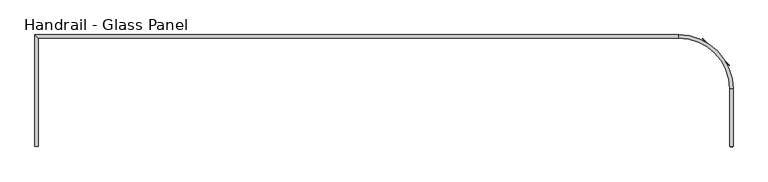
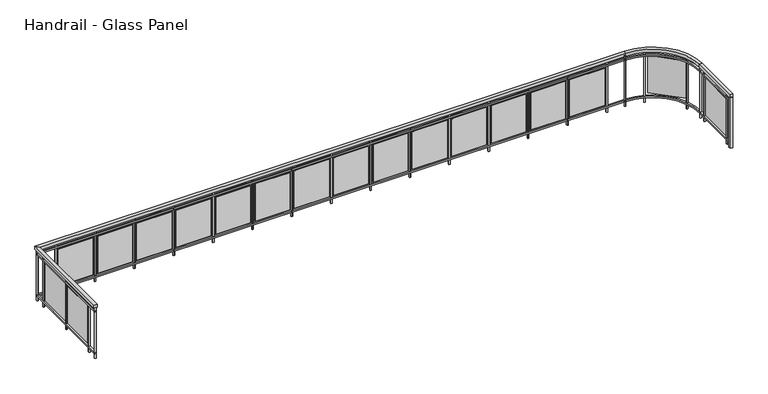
"""IFC4 building model written with IfcOpenShell, lengths in millimetres: railing geometry, Handrail - Glass Panel."""

import ifcopenshell
import ifcopenshell.guid

model = None  # the IFC model being written
_history = None  # IfcOwnerHistory: only IFC2X3 demands one
_inside = {}  # id of a spatial element -> (the spatial element, [elements in it])
_under = {}  # id of a project, library or spatial element -> (it, [spatial elements below it])
_declared = {}  # id of a project -> (the project, [libraries it declares])
_typed = {}  # id of a type object -> (the type object, [elements of that type])
_made_of = {}  # id of a material, layer set ... -> (it, [elements and type objects made of it])


def new_model(schema):
    """Start an empty IFC model of exactly this schema.

    Asked for "IFC4X3", IfcOpenShell would pick the latest addendum, in which some entities
    have other attributes; the version numbers below select the first issue.
    IFC2X3 requires an IfcOwnerHistory on every rooted entity: one is made here for all.
    """
    global model, _history
    if schema == "IFC4X3":
        model = ifcopenshell.file(schema_version=(4, 3, 0, 0))
    else:
        model = ifcopenshell.file(schema=schema)
    _inside.clear()
    _under.clear()
    _declared.clear()
    _typed.clear()
    _made_of.clear()
    _history = None
    if model.schema == "IFC2X3":
        org = make("IfcOrganization", Name="unknown")
        user = make(
            "IfcPersonAndOrganization",
            ThePerson=make("IfcPerson", FamilyName="unknown"),
            TheOrganization=org,
        )
        app = make(
            "IfcApplication",
            ApplicationDeveloper=org,
            Version="unknown",
            ApplicationFullName="unknown",
            ApplicationIdentifier="unknown",
        )
        _history = make(
            "IfcOwnerHistory",
            OwningUser=user,
            OwningApplication=app,
            ChangeAction="ADDED",
            CreationDate=0,
        )
    return model


def make(cls, **values):
    """One entity of the class cls with the attributes given. An attribute that is None is left unset."""
    return model.create_entity(
        cls, **{name: value for name, value in values.items() if value is not None}
    )


def rooted(cls, **values):
    """An entity with a GlobalId (a new one), such as an element, a storey or a relation."""
    return make(cls, GlobalId=ifcopenshell.guid.new(), OwnerHistory=_history, **values)


def si_unit(unit_type, name, prefix=None):
    """IfcSIUnit, for example si_unit("LENGTHUNIT", "METRE", prefix="MILLI")."""
    return make("IfcSIUnit", UnitType=unit_type, Prefix=prefix, Name=name)


def assignment(units):
    """IfcUnitAssignment: the units of a project."""
    return None if units is None else make("IfcUnitAssignment", Units=units)


def point(xyz):
    """IfcCartesianPoint."""
    return None if xyz is None else make("IfcCartesianPoint", Coordinates=xyz)


def direction(xyz):
    """IfcDirection."""
    return None if xyz is None else make("IfcDirection", DirectionRatios=xyz)


def frame(location, z_axis=None, x_axis=None):
    """IfcAxis2Placement3D, a coordinate frame: its origin and axes. An axis left out is left unset."""
    return make(
        "IfcAxis2Placement3D",
        Location=point(location),
        Axis=direction(z_axis),
        RefDirection=direction(x_axis),
    )


def frame_2d(location, x_axis=None):
    """IfcAxis2Placement2D, a coordinate frame in the plane: its origin and x axis."""
    return make(
        "IfcAxis2Placement2D", Location=point(location), RefDirection=direction(x_axis)
    )


def origin():
    """The frame at (0, 0, 0) with its axes left unset."""
    return frame((0.0, 0.0, 0.0))


def place(relative_to, where):
    """IfcLocalPlacement: puts the frame where relative to a parent placement (None: the world)."""
    return make(
        "IfcLocalPlacement", PlacementRelTo=relative_to, RelativePlacement=where
    )


def context(
    kind, dimensions, precision=None, world=None, true_north=None, identifier=None
):
    """IfcGeometricRepresentationContext, for example the 3D "Model" context."""
    return make(
        "IfcGeometricRepresentationContext",
        ContextIdentifier=identifier,
        ContextType=kind,
        CoordinateSpaceDimension=dimensions,
        Precision=precision,
        WorldCoordinateSystem=world,
        TrueNorth=true_north,
    )


def project(units=None, contexts=None):
    """IfcProject with its units and contexts."""
    return rooted(
        "IfcProject",
        Name="project",
        RepresentationContexts=contexts,
        UnitsInContext=assignment(units),
    )


def spatial(cls, under=None, at=None, **own):
    """A site, building, storey or space (cls), placed at a placement, below another one or the project."""
    s = rooted(cls, ObjectPlacement=at, **own)
    if under is not None:
        _under.setdefault(under.id(), (under, []))[1].append(s)
    return s


def polyline(points):
    """IfcPolyline through the points."""
    return make("IfcPolyline", Points=[point(p) for p in points])


def circle_curve(where, radius):
    """IfcCircle in the frame where."""
    return make("IfcCircle", Position=where, Radius=radius)


def trimmed(basis, trim1, trim2, sense, master):
    """IfcTrimmedCurve: the piece of a basis curve between two trims."""
    return make(
        "IfcTrimmedCurve",
        BasisCurve=basis,
        Trim1=trim1,
        Trim2=trim2,
        SenseAgreement=sense,
        MasterRepresentation=master,
    )


def segment(curve, same_sense, transition):
    """IfcCompositeCurveSegment."""
    return make(
        "IfcCompositeCurveSegment",
        Transition=transition,
        SameSense=same_sense,
        ParentCurve=curve,
    )


def composite_curve(segments, self_intersect=None):
    """IfcCompositeCurve: segments joined end to end."""
    return make("IfcCompositeCurve", Segments=segments, SelfIntersect=self_intersect)


def outline(outer, holes=None, kind="AREA"):
    """IfcArbitraryClosedProfileDef: a profile drawn as a closed curve; with holes, ...WithVoids."""
    if holes is None:
        return make("IfcArbitraryClosedProfileDef", ProfileType=kind, OuterCurve=outer)
    return make(
        "IfcArbitraryProfileDefWithVoids",
        ProfileType=kind,
        OuterCurve=outer,
        InnerCurves=holes,
    )


def extrude(swept, where, along, depth):
    """IfcExtrudedAreaSolid: the profile swept, set in the frame where, extruded along a direction by depth."""
    return make(
        "IfcExtrudedAreaSolid",
        SweptArea=swept,
        Position=where,
        ExtrudedDirection=direction(along),
        Depth=depth,
    )


def shape(context_of_items, identifier, shape_type, items):
    """IfcShapeRepresentation: the items that make up one representation, for example the "Body"."""
    return make(
        "IfcShapeRepresentation",
        ContextOfItems=context_of_items,
        RepresentationIdentifier=identifier,
        RepresentationType=shape_type,
        Items=items,
    )


def source(mapping_origin, context_of_items, identifier, shape_type, items):
    """IfcRepresentationMap: a shape defined once, which mapped items show again and again."""
    return make(
        "IfcRepresentationMap",
        MappingOrigin=mapping_origin,
        MappedRepresentation=shape(context_of_items, identifier, shape_type, items),
    )


def transform(
    local_origin,
    x_axis=None,
    y_axis=None,
    z_axis=None,
    scale=None,
    scale2=None,
    scale3=None,
    uniform=True,
):
    """IfcCartesianTransformationOperator3D, or its non-uniform kind. x_axis, y_axis, z_axis: its Axis1, 2, 3."""
    if uniform:
        return make(
            "IfcCartesianTransformationOperator3D",
            Axis1=direction(x_axis),
            Axis2=direction(y_axis),
            LocalOrigin=point(local_origin),
            Scale=scale,
            Axis3=direction(z_axis),
        )
    return make(
        "IfcCartesianTransformationOperator3DnonUniform",
        Axis1=direction(x_axis),
        Axis2=direction(y_axis),
        LocalOrigin=point(local_origin),
        Scale=scale,
        Axis3=direction(z_axis),
        Scale2=scale2,
        Scale3=scale3,
    )


def mapped(mapping_source, mapping_target):
    """IfcMappedItem: shows the shape of a source again, moved by a transform."""
    return make(
        "IfcMappedItem", MappingSource=mapping_source, MappingTarget=mapping_target
    )


def made_of(thing, what):
    """Note that an element or type object is made of a material, layer set ...; save() writes the relation."""
    if what is not None:
        _made_of.setdefault(what.id(), (what, []))[1].append(thing)
    return thing


def element(
    cls,
    number,
    at=None,
    inside=None,
    cuts=None,
    type_object=None,
    material=None,
    context=None,
    identifier="Body",
    shape_type=None,
    held_by="IfcProductDefinitionShape",
    body=None,
    shapes=None,
    **own,
):
    """One element of the class cls, such as IfcWall. Its Tag is "e" and its number.

    at: its placement. inside: the storey or other place that contains it. cuts: it is an
    opening in that element (IfcRelVoidsElement). A single representation is given by context,
    identifier, shape_type and body (its items); several are given by shapes. held_by: the class
    of the entity that holds the representations. save() writes the other relations.
    """
    e = rooted(cls, Tag="e%d" % number, ObjectPlacement=at, **own)
    if body is not None:
        shapes = [shape(context, identifier, shape_type, body)]
    if shapes is not None:
        e.Representation = make(held_by, Representations=shapes)
    if inside is not None:
        _inside.setdefault(inside.id(), (inside, []))[1].append(e)
    if cuts is not None:
        rooted(
            "IfcRelVoidsElement", RelatingBuildingElement=cuts, RelatedOpeningElement=e
        )
    if type_object is not None:
        _typed.setdefault(type_object.id(), (type_object, []))[1].append(e)
    return made_of(e, material)


def aggregate(whole, parts):
    """IfcRelAggregates: a whole, such as a stair, and the parts it consists of."""
    return rooted("IfcRelAggregates", RelatingObject=whole, RelatedObjects=parts)


def save(model, path):
    """Write the relations noted so far, then the file.

    IfcRelAggregates (storeys below a building ...), IfcRelContainedInSpatialStructure (elements
    in a storey), IfcRelDefinesByType, IfcRelAssociatesMaterial and IfcRelDeclares: one each for
    every whole, place, type object, material and project.
    """
    for whole, parts in _under.values():
        aggregate(whole, parts)
    for where, things in _inside.values():
        rooted(
            "IfcRelContainedInSpatialStructure",
            RelatedElements=things,
            RelatingStructure=where,
        )
    for kind, things in _typed.values():
        rooted("IfcRelDefinesByType", RelatedObjects=things, RelatingType=kind)
    for what, things in _made_of.values():
        rooted("IfcRelAssociatesMaterial", RelatedObjects=things, RelatingMaterial=what)
    for by, libraries in _declared.values():
        rooted("IfcRelDeclares", RelatingContext=by, RelatedDefinitions=libraries)
    model.write(path)


def plane_surface(at):
    """IfcPlane: the flat surface through the origin of the frame at, square to its z axis."""
    return make("IfcPlane", Position=at)


def cylinder_surface(at, radius):
    """IfcCylindricalSurface: all points at the distance radius from the z axis of the frame at."""
    return make("IfcCylindricalSurface", Position=at, Radius=radius)


def revolved_surface(curve, axis_point, axis_direction):
    """IfcSurfaceOfRevolution: the curve turned about the line through axis_point along axis_direction."""
    return make(
        "IfcSurfaceOfRevolution",
        SweptCurve=make("IfcArbitraryOpenProfileDef", ProfileType="CURVE", Curve=curve),
        AxisPosition=make("IfcAxis1Placement", Location=point(axis_point), Axis=direction(axis_direction)),
    )


def advanced_brep(points, edges, surfaces, faces):
    """IfcAdvancedBrep: a solid bounded by faces that lie on surfaces and meet in shared edges.

    An edge is (start, end): straight between two places in points (the first is 0);
    or (start, end, curve); or (start, end, curve, False) where it runs against its curve.
    A face is (place in surfaces, loops), or (place, loops, False) where it looks against
    its surface's normal. A loop lists edges by number (the first is 1), with a minus sign
    where the edge is run from its end to its start. The first loop is the outer one.
    """
    corners = [point(p) for p in points]
    vertices = [make("IfcVertexPoint", VertexGeometry=c) for c in corners]
    made = []
    for start, end, *more in edges:
        made.append(
            make(
                "IfcEdgeCurve",
                EdgeStart=vertices[start],
                EdgeEnd=vertices[end],
                EdgeGeometry=more[0] if more else make("IfcPolyline", Points=[corners[start], corners[end]]),
                SameSense=more[1] if len(more) > 1 else True,
            )
        )
    hull = []
    for where, loops, *sense in faces:
        bounds = []
        for j, loop in enumerate(loops):
            ring = [make("IfcOrientedEdge", EdgeElement=made[abs(k) - 1], Orientation=k > 0) for k in loop]
            bounds.append(
                make(
                    "IfcFaceOuterBound" if j == 0 else "IfcFaceBound",
                    Bound=make("IfcEdgeLoop", EdgeList=ring),
                    Orientation=True,
                )
            )
        hull.append(make("IfcAdvancedFace", Bounds=bounds, FaceSurface=surfaces[where], SameSense=sense[0] if sense else True))
    return make("IfcAdvancedBrep", Outer=make("IfcClosedShell", CfsFaces=hull))


def handrail_glass_panel_52af69f2(model_context):
    return source(origin(), model_context, "Body", "SolidModel", [
        advanced_brep(
        [(30113.2134101, 6897.3851347, 5564.4), (30062.4134101, 6897.3851347, 5564.4), (30062.4134101, 6897.3851347, 5513.6), (30113.2134101, 6897.3851347, 5513.6), (30113.2134101, 7747.3851347, 5564.4), (30062.4134101, 7747.3851347, 5564.4), (30062.4134101, 7747.3851347, 5513.6), (30113.2134101, 7747.3851347, 5513.6), (29312.4134101, 8497.3851347, 5564.4), (29312.4134101, 8548.1851347, 5564.4), (29312.4134101, 8497.3851347, 5513.6), (29312.4134101, 8548.1851347, 5513.6), (19806.6134101, 8548.1851347, 5564.4), (19857.4134101, 8497.3851347, 5564.4), (19857.4134101, 8497.3851347, 5513.6), (19806.6134101, 8548.1851347, 5513.6), (19806.6134101, 6897.3851347, 5564.4), (19806.6134101, 6897.3851347, 5513.6), (19857.4134101, 6897.3851347, 5513.6), (19857.4134101, 6897.3851347, 5564.4)],
        [
            (0, 1),
            (1, 2),
            (2, 3),
            (3, 0),
            (0, 4),
            (4, 5),
            (5, 1),
            (5, 6),
            (6, 2),
            (6, 7),
            (7, 3),
            (7, 4),
            (8, 5, circle_curve(frame((29312.4134101, 7747.3851347, 5564.4), z_axis=(0.0, 0.0, -1.0), x_axis=(1.0, 0.0, 0.0)), 750.0)),
            (4, 9, circle_curve(frame((29312.4134101, 7747.3851347, 5564.4), z_axis=(0.0, 0.0, 1.0), x_axis=(1.0, 0.0, 0.0)), 800.8)),
            (9, 8),
            (10, 6, circle_curve(frame((29312.4134101, 7747.3851347, 5513.6), z_axis=(0.0, 0.0, -1.0), x_axis=(1.0, 0.0, 0.0)), 750.0)),
            (8, 10),
            (11, 7, circle_curve(frame((29312.4134101, 7747.3851347, 5513.6), z_axis=(0.0, 0.0, -1.0), x_axis=(1.0, 0.0, 0.0)), 800.8)),
            (10, 11),
            (11, 9),
            (9, 12),
            (12, 13),
            (13, 8),
            (13, 14),
            (14, 10),
            (14, 15),
            (15, 11),
            (15, 12),
            (16, 17),
            (17, 18),
            (18, 19),
            (19, 16),
            (12, 16),
            (19, 13),
            (18, 14),
            (17, 15),
        ],
        [
            plane_surface(frame((30087.8134101, 6897.3851347, 5564.4), z_axis=(0.0, -1.0, 0.0), x_axis=(0.0, 0.0, 1.0))),
            plane_surface(frame((30113.2134101, 6897.3851347, 5564.4), z_axis=(0.0, 0.0, 1.0), x_axis=(0.0, 1.0, 0.0))),
            plane_surface(frame((30062.4134101, 6897.3851347, 5564.4), z_axis=(-1.0, 0.0, 0.0), x_axis=(0.0, 1.0, 0.0))),
            plane_surface(frame((30062.4134101, 6897.3851347, 5513.6), z_axis=(0.0, 0.0, -1.0), x_axis=(0.0, 1.0, 0.0))),
            plane_surface(frame((30113.2134101, 6897.3851347, 5513.6), z_axis=(1.0, 0.0, 0.0), x_axis=(0.0, 1.0, 0.0))),
            plane_surface(frame((29312.4134101, 7747.3851347, 5564.4), z_axis=(0.0, 0.0, 1.0), x_axis=(1.0, 0.0, 0.0))),
            revolved_surface(polyline([(30062.4134101, 7747.3851347, 5564.4), (30062.4134101, 7747.3851347, 5513.6)]), (29312.4134101, 7747.3851347, 5564.4), (0.0, 0.0, 1.0)),
            plane_surface(frame((29312.4134101, 7747.3851347, 5513.6), z_axis=(0.0, 0.0, -1.0), x_axis=(1.0, 0.0, 0.0))),
            cylinder_surface(frame((29312.4134101, 7747.3851347, 5564.4), z_axis=(0.0, 0.0, 1.0), x_axis=(1.0, 0.0, 0.0)), 800.8),
            plane_surface(frame((29312.4134101, 8548.1851347, 5564.4), z_axis=(0.0, 0.0, 1.0), x_axis=(-1.0, 0.0, 0.0))),
            plane_surface(frame((29312.4134101, 8497.3851347, 5564.4), z_axis=(0.0, -1.0, 0.0), x_axis=(-1.0, 0.0, 0.0))),
            plane_surface(frame((29312.4134101, 8497.3851347, 5513.6), z_axis=(0.0, 0.0, -1.0), x_axis=(-1.0, 0.0, 0.0))),
            plane_surface(frame((29312.4134101, 8548.1851347, 5513.6), z_axis=(0.0, 1.0, 0.0), x_axis=(-1.0, 0.0, 0.0))),
            plane_surface(frame((19832.0134101, 6897.3851347, 5564.4), z_axis=(0.0, -1.0, 0.0), x_axis=(0.0, 0.0, -1.0))),
            plane_surface(frame((19806.6134101, 8548.1851347, 5564.4), z_axis=(0.0, 0.0, 1.0), x_axis=(0.0, -1.0, 0.0))),
            plane_surface(frame((19857.4134101, 8497.3851347, 5564.4), z_axis=(1.0, 0.0, 0.0), x_axis=(0.0, -1.0, 0.0))),
            plane_surface(frame((19857.4134101, 8497.3851347, 5513.6), z_axis=(0.0, 0.0, -1.0), x_axis=(0.0, -1.0, 0.0))),
            plane_surface(frame((19806.6134101, 8548.1851347, 5513.6), z_axis=(-1.0, 0.0, 0.0), x_axis=(0.0, -1.0, 0.0))),
        ],
        [
            (0, [[1, 2, 3, 4]]),
            (1, [[-1, 5, 6, 7]]),
            (2, [[-2, -7, 8, 9]]),
            (3, [[-3, -9, 10, 11]]),
            (4, [[-4, -11, 12, -5]]),
            (5, [[13, -6, 14, 15]]),
            (6, [[16, -8, -13, 17]]),
            (7, [[18, -10, -16, 19]]),
            (8, [[-14, -12, -18, 20]]),
            (9, [[-15, 21, 22, 23]]),
            (10, [[-17, -23, 24, 25]]),
            (11, [[-19, -25, 26, 27]]),
            (12, [[-20, -27, 28, -21]]),
            (13, [[29, 30, 31, 32]]),
            (14, [[-22, 33, -32, 34]]),
            (15, [[-24, -34, -31, 35]]),
            (16, [[-26, -35, -30, 36]]),
            (17, [[-28, -36, -29, -33]]),
        ],
    ),
        advanced_brep(
        [(30100.5134101, 6897.3851347, 5462.8), (30075.1134101, 6897.3851347, 5462.8), (30075.1134101, 6897.3851347, 5437.4), (30100.5134101, 6897.3851347, 5437.4), (30100.5134101, 7747.3851347, 5462.8), (30075.1134101, 7747.3851347, 5462.8), (30075.1134101, 7747.3851347, 5437.4), (30100.5134101, 7747.3851347, 5437.4), (29312.4134101, 8510.0851347, 5462.8), (29312.4134101, 8535.4851347, 5462.8), (29312.4134101, 8510.0851347, 5437.4), (29312.4134101, 8535.4851347, 5437.4), (19819.3134101, 8535.4851347, 5462.8), (19844.7134101, 8510.0851347, 5462.8), (19844.7134101, 8510.0851347, 5437.4), (19819.3134101, 8535.4851347, 5437.4), (19819.3134101, 6897.3851347, 5462.8), (19819.3134101, 6897.3851347, 5437.4), (19844.7134101, 6897.3851347, 5437.4), (19844.7134101, 6897.3851347, 5462.8)],
        [
            (0, 1),
            (1, 2),
            (2, 3),
            (3, 0),
            (0, 4),
            (4, 5),
            (5, 1),
            (5, 6),
            (6, 2),
            (6, 7),
            (7, 3),
            (7, 4),
            (8, 5, circle_curve(frame((29312.4134101, 7747.3851347, 5462.8), z_axis=(0.0, 0.0, -1.0), x_axis=(1.0, 0.0, 0.0)), 762.7)),
            (4, 9, circle_curve(frame((29312.4134101, 7747.3851347, 5462.8), z_axis=(0.0, 0.0, 1.0), x_axis=(1.0, 0.0, 0.0)), 788.1)),
            (9, 8),
            (10, 6, circle_curve(frame((29312.4134101, 7747.3851347, 5437.4), z_axis=(0.0, 0.0, -1.0), x_axis=(1.0, 0.0, 0.0)), 762.7)),
            (8, 10),
            (11, 7, circle_curve(frame((29312.4134101, 7747.3851347, 5437.4), z_axis=(0.0, 0.0, -1.0), x_axis=(1.0, 0.0, 0.0)), 788.1)),
            (10, 11),
            (11, 9),
            (9, 12),
            (12, 13),
            (13, 8),
            (13, 14),
            (14, 10),
            (14, 15),
            (15, 11),
            (15, 12),
            (16, 17),
            (17, 18),
            (18, 19),
            (19, 16),
            (12, 16),
            (19, 13),
            (18, 14),
            (17, 15),
        ],
        [
            plane_surface(frame((30087.8134101, 6897.3851347, 5462.8), z_axis=(0.0, -1.0, 0.0), x_axis=(0.0, 0.0, 1.0))),
            plane_surface(frame((30100.5134101, 6897.3851347, 5462.8), z_axis=(0.0, 0.0, 1.0), x_axis=(0.0, 1.0, 0.0))),
            plane_surface(frame((30075.1134101, 6897.3851347, 5462.8), z_axis=(-1.0, 0.0, 0.0), x_axis=(0.0, 1.0, 0.0))),
            plane_surface(frame((30075.1134101, 6897.3851347, 5437.4), z_axis=(0.0, 0.0, -1.0), x_axis=(0.0, 1.0, 0.0))),
            plane_surface(frame((30100.5134101, 6897.3851347, 5437.4), z_axis=(1.0, 0.0, 0.0), x_axis=(0.0, 1.0, 0.0))),
            plane_surface(frame((29312.4134101, 7747.3851347, 5462.8), z_axis=(0.0, 0.0, 1.0), x_axis=(1.0, 0.0, 0.0))),
            revolved_surface(polyline([(30075.113410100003, 7747.3851347, 5462.8), (30075.113410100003, 7747.3851347, 5437.4)]), (29312.4134101, 7747.3851347, 5462.8), (0.0, 0.0, 1.0)),
            plane_surface(frame((29312.4134101, 7747.3851347, 5437.4), z_axis=(0.0, 0.0, -1.0), x_axis=(1.0, 0.0, 0.0))),
            cylinder_surface(frame((29312.4134101, 7747.3851347, 5462.8), z_axis=(0.0, 0.0, 1.0), x_axis=(1.0, 0.0, 0.0)), 788.1),
            plane_surface(frame((29312.4134101, 8535.4851347, 5462.8), z_axis=(0.0, 0.0, 1.0), x_axis=(-1.0, 0.0, 0.0))),
            plane_surface(frame((29312.4134101, 8510.0851347, 5462.8), z_axis=(0.0, -1.0, 0.0), x_axis=(-1.0, 0.0, 0.0))),
            plane_surface(frame((29312.4134101, 8510.0851347, 5437.4), z_axis=(0.0, 0.0, -1.0), x_axis=(-1.0, 0.0, 0.0))),
            plane_surface(frame((29312.4134101, 8535.4851347, 5437.4), z_axis=(0.0, 1.0, 0.0), x_axis=(-1.0, 0.0, 0.0))),
            plane_surface(frame((19832.0134101, 6897.3851347, 5462.8), z_axis=(0.0, -1.0, 0.0), x_axis=(0.0, 0.0, -1.0))),
            plane_surface(frame((19819.3134101, 8535.4851347, 5462.8), z_axis=(0.0, 0.0, 1.0), x_axis=(0.0, -1.0, 0.0))),
            plane_surface(frame((19844.7134101, 8510.0851347, 5462.8), z_axis=(1.0, 0.0, 0.0), x_axis=(0.0, -1.0, 0.0))),
            plane_surface(frame((19844.7134101, 8510.0851347, 5437.4), z_axis=(0.0, 0.0, -1.0), x_axis=(0.0, -1.0, 0.0))),
            plane_surface(frame((19819.3134101, 8535.4851347, 5437.4), z_axis=(-1.0, 0.0, 0.0), x_axis=(0.0, -1.0, 0.0))),
        ],
        [
            (0, [[1, 2, 3, 4]]),
            (1, [[-1, 5, 6, 7]]),
            (2, [[-2, -7, 8, 9]]),
            (3, [[-3, -9, 10, 11]]),
            (4, [[-4, -11, 12, -5]]),
            (5, [[13, -6, 14, 15]]),
            (6, [[16, -8, -13, 17]]),
            (7, [[18, -10, -16, 19]]),
            (8, [[-14, -12, -18, 20]]),
            (9, [[-15, 21, 22, 23]]),
            (10, [[-17, -23, 24, 25]]),
            (11, [[-19, -25, 26, 27]]),
            (12, [[-20, -27, 28, -21]]),
            (13, [[29, 30, 31, 32]]),
            (14, [[-22, 33, -32, 34]]),
            (15, [[-24, -34, -31, 35]]),
            (16, [[-26, -35, -30, 36]]),
            (17, [[-28, -36, -29, -33]]),
        ],
    ),
        advanced_brep(
        [(30100.5134101, 6897.3851347, 4751.6), (30075.1134101, 6897.3851347, 4751.6), (30075.1134101, 6897.3851347, 4726.2), (30100.5134101, 6897.3851347, 4726.2), (30100.5134101, 7747.3851347, 4751.6), (30075.1134101, 7747.3851347, 4751.6), (30075.1134101, 7747.3851347, 4726.2), (30100.5134101, 7747.3851347, 4726.2), (29312.4134101, 8510.0851347, 4751.6), (29312.4134101, 8535.4851347, 4751.6), (29312.4134101, 8510.0851347, 4726.2), (29312.4134101, 8535.4851347, 4726.2), (19819.3134101, 8535.4851347, 4751.6), (19844.7134101, 8510.0851347, 4751.6), (19844.7134101, 8510.0851347, 4726.2), (19819.3134101, 8535.4851347, 4726.2), (19819.3134101, 6897.3851347, 4751.6), (19819.3134101, 6897.3851347, 4726.2), (19844.7134101, 6897.3851347, 4726.2), (19844.7134101, 6897.3851347, 4751.6)],
        [
            (0, 1),
            (1, 2),
            (2, 3),
            (3, 0),
            (0, 4),
            (4, 5),
            (5, 1),
            (5, 6),
            (6, 2),
            (6, 7),
            (7, 3),
            (7, 4),
            (8, 5, circle_curve(frame((29312.4134101, 7747.3851347, 4751.6), z_axis=(0.0, 0.0, -1.0), x_axis=(1.0, 0.0, 0.0)), 762.7)),
            (4, 9, circle_curve(frame((29312.4134101, 7747.3851347, 4751.6), z_axis=(0.0, 0.0, 1.0), x_axis=(1.0, 0.0, 0.0)), 788.1)),
            (9, 8),
            (10, 6, circle_curve(frame((29312.4134101, 7747.3851347, 4726.2), z_axis=(0.0, 0.0, -1.0), x_axis=(1.0, 0.0, 0.0)), 762.7)),
            (8, 10),
            (11, 7, circle_curve(frame((29312.4134101, 7747.3851347, 4726.2), z_axis=(0.0, 0.0, -1.0), x_axis=(1.0, 0.0, 0.0)), 788.1)),
            (10, 11),
            (11, 9),
            (9, 12),
            (12, 13),
            (13, 8),
            (13, 14),
            (14, 10),
            (14, 15),
            (15, 11),
            (15, 12),
            (16, 17),
            (17, 18),
            (18, 19),
            (19, 16),
            (12, 16),
            (19, 13),
            (18, 14),
            (17, 15),
        ],
        [
            plane_surface(frame((30087.8134101, 6897.3851347, 4751.6), z_axis=(0.0, -1.0, 0.0), x_axis=(0.0, 0.0, 1.0))),
            plane_surface(frame((30100.5134101, 6897.3851347, 4751.6), z_axis=(0.0, 0.0, 1.0), x_axis=(0.0, 1.0, 0.0))),
            plane_surface(frame((30075.1134101, 6897.3851347, 4751.6), z_axis=(-1.0, 0.0, 0.0), x_axis=(0.0, 1.0, 0.0))),
            plane_surface(frame((30075.1134101, 6897.3851347, 4726.2), z_axis=(0.0, 0.0, -1.0), x_axis=(0.0, 1.0, 0.0))),
            plane_surface(frame((30100.5134101, 6897.3851347, 4726.2), z_axis=(1.0, 0.0, 0.0), x_axis=(0.0, 1.0, 0.0))),
            plane_surface(frame((29312.4134101, 7747.3851347, 4751.6), z_axis=(0.0, 0.0, 1.0), x_axis=(1.0, 0.0, 0.0))),
            revolved_surface(polyline([(30075.113410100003, 7747.3851347, 4751.6), (30075.113410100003, 7747.3851347, 4726.2)]), (29312.4134101, 7747.3851347, 4751.6), (0.0, 0.0, 1.0)),
            plane_surface(frame((29312.4134101, 7747.3851347, 4726.2), z_axis=(0.0, 0.0, -1.0), x_axis=(1.0, 0.0, 0.0))),
            cylinder_surface(frame((29312.4134101, 7747.3851347, 4751.6), z_axis=(0.0, 0.0, 1.0), x_axis=(1.0, 0.0, 0.0)), 788.1),
            plane_surface(frame((29312.4134101, 8535.4851347, 4751.6), z_axis=(0.0, 0.0, 1.0), x_axis=(-1.0, 0.0, 0.0))),
            plane_surface(frame((29312.4134101, 8510.0851347, 4751.6), z_axis=(0.0, -1.0, 0.0), x_axis=(-1.0, 0.0, 0.0))),
            plane_surface(frame((29312.4134101, 8510.0851347, 4726.2), z_axis=(0.0, 0.0, -1.0), x_axis=(-1.0, 0.0, 0.0))),
            plane_surface(frame((29312.4134101, 8535.4851347, 4726.2), z_axis=(0.0, 1.0, 0.0), x_axis=(-1.0, 0.0, 0.0))),
            plane_surface(frame((19832.0134101, 6897.3851347, 4751.6), z_axis=(0.0, -1.0, 0.0), x_axis=(0.0, 0.0, -1.0))),
            plane_surface(frame((19819.3134101, 8535.4851347, 4751.6), z_axis=(0.0, 0.0, 1.0), x_axis=(0.0, -1.0, 0.0))),
            plane_surface(frame((19844.7134101, 8510.0851347, 4751.6), z_axis=(1.0, 0.0, 0.0), x_axis=(0.0, -1.0, 0.0))),
            plane_surface(frame((19844.7134101, 8510.0851347, 4726.2), z_axis=(0.0, 0.0, -1.0), x_axis=(0.0, -1.0, 0.0))),
            plane_surface(frame((19819.3134101, 8535.4851347, 4726.2), z_axis=(-1.0, 0.0, 0.0), x_axis=(0.0, -1.0, 0.0))),
        ],
        [
            (0, [[1, 2, 3, 4]]),
            (1, [[-1, 5, 6, 7]]),
            (2, [[-2, -7, 8, 9]]),
            (3, [[-3, -9, 10, 11]]),
            (4, [[-4, -11, 12, -5]]),
            (5, [[13, -6, 14, 15]]),
            (6, [[16, -8, -13, 17]]),
            (7, [[18, -10, -16, 19]]),
            (8, [[-14, -12, -18, 20]]),
            (9, [[-15, 21, 22, 23]]),
            (10, [[-17, -23, 24, 25]]),
            (11, [[-19, -25, 26, 27]]),
            (12, [[-20, -27, 28, -21]]),
            (13, [[29, 30, 31, 32]]),
            (14, [[-22, 33, -32, 34]]),
            (15, [[-24, -34, -31, 35]]),
            (16, [[-26, -35, -30, 36]]),
            (17, [[-28, -36, -29, -33]]),
        ],
    ),
        extrude(outline(polyline([(19822.4884101, 7084.6101347), (19841.5384101, 7084.6101347), (19841.5384101, 7065.5601347), (19822.4884101, 7065.5601347), (19822.4884101, 7084.6101347)])), frame((0.0, 0.0, 4650.0), z_axis=(0.0, 0.0, 1.0), x_axis=(1.0, 0.0, 0.0)), (0.0, 0.0, 1.0), 863.6),
        extrude(outline(polyline([(19838.3634101, 7671.9851347), (19838.3634101, 7113.1851347), (19832.0134101, 7113.1851347), (19832.0134101, 7671.9851347), (19838.3634101, 7671.9851347)])), frame((0.0, 0.0, 4777.0), z_axis=(0.0, 0.0, 1.0), x_axis=(1.0, 0.0, 0.0)), (0.0, 0.0, 1.0), 635.0),
        extrude(outline(polyline([(19822.4884101, 7719.6101347), (19841.5384101, 7719.6101347), (19841.5384101, 7700.5601347), (19822.4884101, 7700.5601347), (19822.4884101, 7719.6101347)])), frame((0.0, 0.0, 4650.0), z_axis=(0.0, 0.0, 1.0), x_axis=(1.0, 0.0, 0.0)), (0.0, 0.0, 1.0), 863.6),
        extrude(outline(polyline([(19838.3634101, 8306.9851347), (19838.3634101, 7748.1851347), (19832.0134101, 7748.1851347), (19832.0134101, 8306.9851347), (19838.3634101, 8306.9851347)])), frame((0.0, 0.0, 4777.0), z_axis=(0.0, 0.0, 1.0), x_axis=(1.0, 0.0, 0.0)), (0.0, 0.0, 1.0), 635.0),
        extrude(outline(polyline([(19822.4884101, 8354.6101347), (19841.5384101, 8354.6101347), (19841.5384101, 8335.5601347), (19822.4884101, 8335.5601347), (19822.4884101, 8354.6101347)])), frame((0.0, 0.0, 4650.0), z_axis=(0.0, 0.0, 1.0), x_axis=(1.0, 0.0, 0.0)), (0.0, 0.0, 1.0), 863.6),
        extrude(outline(polyline([(20136.7384101, 8532.3101347), (20136.7384101, 8513.2601347), (20117.6884101, 8513.2601347), (20117.6884101, 8532.3101347), (20136.7384101, 8532.3101347)])), frame((0.0, 0.0, 4650.0), z_axis=(0.0, 0.0, 1.0), x_axis=(1.0, 0.0, 0.0)), (0.0, 0.0, 1.0), 863.6),
        extrude(outline(polyline([(20724.1134101, 8516.4351347), (20165.3134101, 8516.4351347), (20165.3134101, 8522.7851347), (20724.1134101, 8522.7851347), (20724.1134101, 8516.4351347)])), frame((0.0, 0.0, 4777.0), z_axis=(0.0, 0.0, 1.0), x_axis=(1.0, 0.0, 0.0)), (0.0, 0.0, 1.0), 635.0),
        extrude(outline(polyline([(20771.7384101, 8532.3101347), (20771.7384101, 8513.2601347), (20752.6884101, 8513.2601347), (20752.6884101, 8532.3101347), (20771.7384101, 8532.3101347)])), frame((0.0, 0.0, 4650.0), z_axis=(0.0, 0.0, 1.0), x_axis=(1.0, 0.0, 0.0)), (0.0, 0.0, 1.0), 863.6),
        extrude(outline(polyline([(21359.1134101, 8516.4351347), (20800.3134101, 8516.4351347), (20800.3134101, 8522.7851347), (21359.1134101, 8522.7851347), (21359.1134101, 8516.4351347)])), frame((0.0, 0.0, 4777.0), z_axis=(0.0, 0.0, 1.0), x_axis=(1.0, 0.0, 0.0)), (0.0, 0.0, 1.0), 635.0),
        extrude(outline(polyline([(21406.7384101, 8532.3101347), (21406.7384101, 8513.2601347), (21387.6884101, 8513.2601347), (21387.6884101, 8532.3101347), (21406.7384101, 8532.3101347)])), frame((0.0, 0.0, 4650.0), z_axis=(0.0, 0.0, 1.0), x_axis=(1.0, 0.0, 0.0)), (0.0, 0.0, 1.0), 863.6),
        extrude(outline(polyline([(21994.1134101, 8516.4351347), (21435.3134101, 8516.4351347), (21435.3134101, 8522.7851347), (21994.1134101, 8522.7851347), (21994.1134101, 8516.4351347)])), frame((0.0, 0.0, 4777.0), z_axis=(0.0, 0.0, 1.0), x_axis=(1.0, 0.0, 0.0)), (0.0, 0.0, 1.0), 635.0),
        extrude(outline(polyline([(22041.7384101, 8532.3101347), (22041.7384101, 8513.2601347), (22022.6884101, 8513.2601347), (22022.6884101, 8532.3101347), (22041.7384101, 8532.3101347)])), frame((0.0, 0.0, 4650.0), z_axis=(0.0, 0.0, 1.0), x_axis=(1.0, 0.0, 0.0)), (0.0, 0.0, 1.0), 863.6),
        extrude(outline(polyline([(22629.1134101, 8516.4351347), (22070.3134101, 8516.4351347), (22070.3134101, 8522.7851347), (22629.1134101, 8522.7851347), (22629.1134101, 8516.4351347)])), frame((0.0, 0.0, 4777.0), z_axis=(0.0, 0.0, 1.0), x_axis=(1.0, 0.0, 0.0)), (0.0, 0.0, 1.0), 635.0),
        extrude(outline(polyline([(22676.7384101, 8532.3101347), (22676.7384101, 8513.2601347), (22657.6884101, 8513.2601347), (22657.6884101, 8532.3101347), (22676.7384101, 8532.3101347)])), frame((0.0, 0.0, 4650.0), z_axis=(0.0, 0.0, 1.0), x_axis=(1.0, 0.0, 0.0)), (0.0, 0.0, 1.0), 863.6),
        extrude(outline(polyline([(23264.1134101, 8516.4351347), (22705.3134101, 8516.4351347), (22705.3134101, 8522.7851347), (23264.1134101, 8522.7851347), (23264.1134101, 8516.4351347)])), frame((0.0, 0.0, 4777.0), z_axis=(0.0, 0.0, 1.0), x_axis=(1.0, 0.0, 0.0)), (0.0, 0.0, 1.0), 635.0),
        extrude(outline(polyline([(23311.7384101, 8532.3101347), (23311.7384101, 8513.2601347), (23292.6884101, 8513.2601347), (23292.6884101, 8532.3101347), (23311.7384101, 8532.3101347)])), frame((0.0, 0.0, 4650.0), z_axis=(0.0, 0.0, 1.0), x_axis=(1.0, 0.0, 0.0)), (0.0, 0.0, 1.0), 863.6),
        extrude(outline(polyline([(23899.1134101, 8516.4351347), (23340.3134101, 8516.4351347), (23340.3134101, 8522.7851347), (23899.1134101, 8522.7851347), (23899.1134101, 8516.4351347)])), frame((0.0, 0.0, 4777.0), z_axis=(0.0, 0.0, 1.0), x_axis=(1.0, 0.0, 0.0)), (0.0, 0.0, 1.0), 635.0),
        extrude(outline(polyline([(23946.7384101, 8532.3101347), (23946.7384101, 8513.2601347), (23927.6884101, 8513.2601347), (23927.6884101, 8532.3101347), (23946.7384101, 8532.3101347)])), frame((0.0, 0.0, 4650.0), z_axis=(0.0, 0.0, 1.0), x_axis=(1.0, 0.0, 0.0)), (0.0, 0.0, 1.0), 863.6),
        extrude(outline(polyline([(24534.1134101, 8516.4351347), (23975.3134101, 8516.4351347), (23975.3134101, 8522.7851347), (24534.1134101, 8522.7851347), (24534.1134101, 8516.4351347)])), frame((0.0, 0.0, 4777.0), z_axis=(0.0, 0.0, 1.0), x_axis=(1.0, 0.0, 0.0)), (0.0, 0.0, 1.0), 635.0),
        extrude(outline(polyline([(24581.7384101, 8532.3101347), (24581.7384101, 8513.2601347), (24562.6884101, 8513.2601347), (24562.6884101, 8532.3101347), (24581.7384101, 8532.3101347)])), frame((0.0, 0.0, 4650.0), z_axis=(0.0, 0.0, 1.0), x_axis=(1.0, 0.0, 0.0)), (0.0, 0.0, 1.0), 863.6),
        extrude(outline(polyline([(25169.1134101, 8516.4351347), (24610.3134101, 8516.4351347), (24610.3134101, 8522.7851347), (25169.1134101, 8522.7851347), (25169.1134101, 8516.4351347)])), frame((0.0, 0.0, 4777.0), z_axis=(0.0, 0.0, 1.0), x_axis=(1.0, 0.0, 0.0)), (0.0, 0.0, 1.0), 635.0),
        extrude(outline(polyline([(25216.7384101, 8532.3101347), (25216.7384101, 8513.2601347), (25197.6884101, 8513.2601347), (25197.6884101, 8532.3101347), (25216.7384101, 8532.3101347)])), frame((0.0, 0.0, 4650.0), z_axis=(0.0, 0.0, 1.0), x_axis=(1.0, 0.0, 0.0)), (0.0, 0.0, 1.0), 863.6),
        extrude(outline(polyline([(25804.1134101, 8516.4351347), (25245.3134101, 8516.4351347), (25245.3134101, 8522.7851347), (25804.1134101, 8522.7851347), (25804.1134101, 8516.4351347)])), frame((0.0, 0.0, 4777.0), z_axis=(0.0, 0.0, 1.0), x_axis=(1.0, 0.0, 0.0)), (0.0, 0.0, 1.0), 635.0),
        extrude(outline(polyline([(25851.7384101, 8532.3101347), (25851.7384101, 8513.2601347), (25832.6884101, 8513.2601347), (25832.6884101, 8532.3101347), (25851.7384101, 8532.3101347)])), frame((0.0, 0.0, 4650.0), z_axis=(0.0, 0.0, 1.0), x_axis=(1.0, 0.0, 0.0)), (0.0, 0.0, 1.0), 863.6),
        extrude(outline(polyline([(26439.1134101, 8516.4351347), (25880.3134101, 8516.4351347), (25880.3134101, 8522.7851347), (26439.1134101, 8522.7851347), (26439.1134101, 8516.4351347)])), frame((0.0, 0.0, 4777.0), z_axis=(0.0, 0.0, 1.0), x_axis=(1.0, 0.0, 0.0)), (0.0, 0.0, 1.0), 635.0),
        extrude(outline(polyline([(26486.7384101, 8532.3101347), (26486.7384101, 8513.2601347), (26467.6884101, 8513.2601347), (26467.6884101, 8532.3101347), (26486.7384101, 8532.3101347)])), frame((0.0, 0.0, 4650.0), z_axis=(0.0, 0.0, 1.0), x_axis=(1.0, 0.0, 0.0)), (0.0, 0.0, 1.0), 863.6),
        extrude(outline(polyline([(27074.1134101, 8516.4351347), (26515.3134101, 8516.4351347), (26515.3134101, 8522.7851347), (27074.1134101, 8522.7851347), (27074.1134101, 8516.4351347)])), frame((0.0, 0.0, 4777.0), z_axis=(0.0, 0.0, 1.0), x_axis=(1.0, 0.0, 0.0)), (0.0, 0.0, 1.0), 635.0),
        extrude(outline(polyline([(27121.7384101, 8532.3101347), (27121.7384101, 8513.2601347), (27102.6884101, 8513.2601347), (27102.6884101, 8532.3101347), (27121.7384101, 8532.3101347)])), frame((0.0, 0.0, 4650.0), z_axis=(0.0, 0.0, 1.0), x_axis=(1.0, 0.0, 0.0)), (0.0, 0.0, 1.0), 863.6),
        extrude(outline(polyline([(27709.1134101, 8516.4351347), (27150.3134101, 8516.4351347), (27150.3134101, 8522.7851347), (27709.1134101, 8522.7851347), (27709.1134101, 8516.4351347)])), frame((0.0, 0.0, 4777.0), z_axis=(0.0, 0.0, 1.0), x_axis=(1.0, 0.0, 0.0)), (0.0, 0.0, 1.0), 635.0),
        extrude(outline(polyline([(27756.7384101, 8532.3101347), (27756.7384101, 8513.2601347), (27737.6884101, 8513.2601347), (27737.6884101, 8532.3101347), (27756.7384101, 8532.3101347)])), frame((0.0, 0.0, 4650.0), z_axis=(0.0, 0.0, 1.0), x_axis=(1.0, 0.0, 0.0)), (0.0, 0.0, 1.0), 863.6),
        extrude(outline(polyline([(28344.1134101, 8516.4351347), (27785.3134101, 8516.4351347), (27785.3134101, 8522.7851347), (28344.1134101, 8522.7851347), (28344.1134101, 8516.4351347)])), frame((0.0, 0.0, 4777.0), z_axis=(0.0, 0.0, 1.0), x_axis=(1.0, 0.0, 0.0)), (0.0, 0.0, 1.0), 635.0),
        extrude(outline(polyline([(28391.7384101, 8532.3101347), (28391.7384101, 8513.2601347), (28372.6884101, 8513.2601347), (28372.6884101, 8532.3101347), (28391.7384101, 8532.3101347)])), frame((0.0, 0.0, 4650.0), z_axis=(0.0, 0.0, 1.0), x_axis=(1.0, 0.0, 0.0)), (0.0, 0.0, 1.0), 863.6),
        extrude(outline(polyline([(28979.1134101, 8516.4351347), (28420.3134101, 8516.4351347), (28420.3134101, 8522.7851347), (28979.1134101, 8522.7851347), (28979.1134101, 8516.4351347)])), frame((0.0, 0.0, 4777.0), z_axis=(0.0, 0.0, 1.0), x_axis=(1.0, 0.0, 0.0)), (0.0, 0.0, 1.0), 635.0),
        extrude(outline(polyline([(29026.7384101, 8532.3101347), (29026.7384101, 8513.2601347), (29007.6884101, 8513.2601347), (29007.6884101, 8532.3101347), (29026.7384101, 8532.3101347)])), frame((0.0, 0.0, 4650.0), z_axis=(0.0, 0.0, 1.0), x_axis=(1.0, 0.0, 0.0)), (0.0, 0.0, 1.0), 863.6),
        extrude(outline(polyline([(29609.4503519, 8473.9985371), (29602.456341, 8456.2788782), (29584.7366821, 8463.2728891), (29591.7306929, 8480.992548), (29609.4503519, 8473.9985371)])), frame((0.0, 0.0, 4650.0), z_axis=(0.0, 0.0, 1.0), x_axis=(1.0, 0.0, 0.0)), (0.0, 0.0, 1.0), 863.6),
        extrude(outline(polyline([(30053.7795148, 8093.6199701), (29658.6482455, 8488.7512395), (29663.1383736, 8493.2413675), (30058.2696429, 8098.1100982), (30053.7795148, 8093.6199701)])), frame((0.0, 0.0, 4777.0), z_axis=(0.0, 0.0, 1.0), x_axis=(1.0, 0.0, 0.0)), (0.0, 0.0, 1.0), 635.0),
        extrude(outline(polyline([(30046.0208234, 8026.7024176), (30028.3011644, 8019.7084067), (30021.3071536, 8037.4280656), (30039.0268125, 8044.4220765), (30046.0208234, 8026.7024176)])), frame((0.0, 0.0, 4650.0), z_axis=(0.0, 0.0, 1.0), x_axis=(1.0, 0.0, 0.0)), (0.0, 0.0, 1.0), 863.6),
        extrude(outline(polyline([(30097.3384101, 7630.3601347), (30078.2884101, 7630.3601347), (30078.2884101, 7649.4101347), (30097.3384101, 7649.4101347), (30097.3384101, 7630.3601347)])), frame((0.0, 0.0, 4650.0), z_axis=(0.0, 0.0, 1.0), x_axis=(1.0, 0.0, 0.0)), (0.0, 0.0, 1.0), 863.6),
        extrude(outline(polyline([(30081.4634101, 7042.9851347), (30081.4634101, 7601.7851347), (30087.8134101, 7601.7851347), (30087.8134101, 7042.9851347), (30081.4634101, 7042.9851347)])), frame((0.0, 0.0, 4777.0), z_axis=(0.0, 0.0, 1.0), x_axis=(1.0, 0.0, 0.0)), (0.0, 0.0, 1.0), 635.0),
        extrude(outline(polyline([(30097.3384101, 6995.3601347), (30078.2884101, 6995.3601347), (30078.2884101, 7014.4101347), (30097.3384101, 7014.4101347), (30097.3384101, 6995.3601347)])), frame((0.0, 0.0, 4650.0), z_axis=(0.0, 0.0, 1.0), x_axis=(1.0, 0.0, 0.0)), (0.0, 0.0, 1.0), 863.6),
        extrude(outline(composite_curve([segment(trimmed(circle_curve(frame_2d((19832.0134101, 8522.7851347)), 12.7), [point((19832.0134101, 8510.0851347))], [point((19832.0134101, 8535.4851347))], False, "CARTESIAN"), True, "CONTINUOUS"), segment(trimmed(circle_curve(frame_2d((19832.0134101, 8522.7851347)), 12.7), [point((19832.0134101, 8535.4851347))], [point((19832.0134101, 8510.0851347))], False, "CARTESIAN"), True, "CONTINUOUS")], self_intersect=False)), frame((0.0, 0.0, 4650.0), z_axis=(0.0, 0.0, 1.0), x_axis=(1.0, 0.0, 0.0)), (0.0, 0.0, 1.0), 863.6),
        extrude(outline(composite_curve([segment(trimmed(circle_curve(frame_2d((29312.4134101, 8522.7851347)), 12.7), [point((29312.4134101, 8510.0851347))], [point((29312.4134101, 8535.4851347))], False, "CARTESIAN"), True, "CONTINUOUS"), segment(trimmed(circle_curve(frame_2d((29312.4134101, 8522.7851347)), 12.7), [point((29312.4134101, 8535.4851347))], [point((29312.4134101, 8510.0851347))], False, "CARTESIAN"), True, "CONTINUOUS")], self_intersect=False)), frame((0.0, 0.0, 4650.0), z_axis=(0.0, 0.0, 1.0), x_axis=(1.0, 0.0, 0.0)), (0.0, 0.0, 1.0), 863.6),
        extrude(outline(composite_curve([segment(trimmed(circle_curve(frame_2d((30087.8134101, 7747.3851347)), 12.7), [point((30075.1134101, 7747.3851347))], [point((30100.5134101, 7747.3851347))], False, "CARTESIAN"), True, "CONTINUOUS"), segment(trimmed(circle_curve(frame_2d((30087.8134101, 7747.3851347)), 12.7), [point((30100.5134101, 7747.3851347))], [point((30075.1134101, 7747.3851347))], False, "CARTESIAN"), True, "CONTINUOUS")], self_intersect=False)), frame((0.0, 0.0, 4650.0), z_axis=(0.0, 0.0, 1.0), x_axis=(1.0, 0.0, 0.0)), (0.0, 0.0, 1.0), 863.6),
        extrude(outline(composite_curve([segment(trimmed(circle_curve(frame_2d((19832.0134101, 6906.9101347)), 12.7), [point((19844.7134101, 6906.9101347))], [point((19819.3134101, 6906.9101347))], False, "CARTESIAN"), True, "CONTINUOUS"), segment(trimmed(circle_curve(frame_2d((19832.0134101, 6906.9101347)), 12.7), [point((19819.3134101, 6906.9101347))], [point((19844.7134101, 6906.9101347))], False, "CARTESIAN"), True, "CONTINUOUS")], self_intersect=False)), frame((0.0, 0.0, 4650.0), z_axis=(0.0, 0.0, 1.0), x_axis=(1.0, 0.0, 0.0)), (0.0, 0.0, 1.0), 863.6),
        extrude(outline(polyline([(30106.8634101, 6887.8601347), (30068.7634101, 6887.8601347), (30068.7634101, 6925.9601347), (30106.8634101, 6925.9601347), (30106.8634101, 6887.8601347)])), frame((0.0, 0.0, 4650.0), z_axis=(0.0, 0.0, 1.0), x_axis=(1.0, 0.0, 0.0)), (0.0, 0.0, 1.0), 863.6),
    ])


if __name__ == "__main__":
    model = new_model("IFC4")
    model_context = context("Model", 3, world=origin())
    ifc_project = project(units=[si_unit("LENGTHUNIT", "METRE", prefix="MILLI")], contexts=[model_context])
    site = spatial("IfcSite", under=ifc_project)
    building = spatial("IfcBuilding", under=site)
    placement = place(None, origin())
    handrail_glass_panel_shape = handrail_glass_panel_52af69f2(model_context)
    element("IfcRailing", 1, ObjectType="Handrail - Glass Panel", at=placement, inside=building, context=model_context, shape_type="MappedRepresentation", body=[
        mapped(handrail_glass_panel_shape, transform((0.0, 0.0, 0.0), x_axis=(1.0, 0.0, 0.0), y_axis=(0.0, 1.0, 0.0), z_axis=(0.0, 0.0, 1.0))),
    ])
    save(model, "model.ifc")
